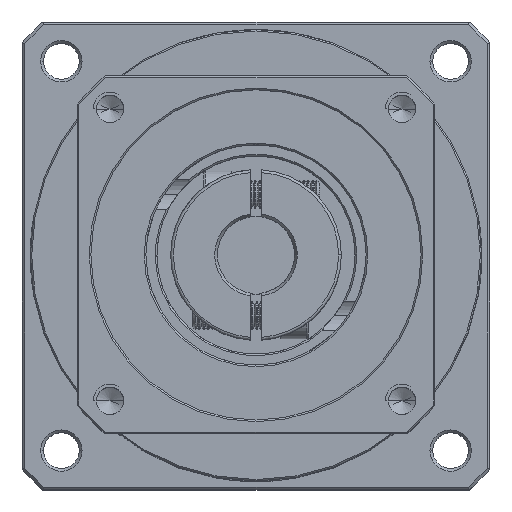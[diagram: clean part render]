
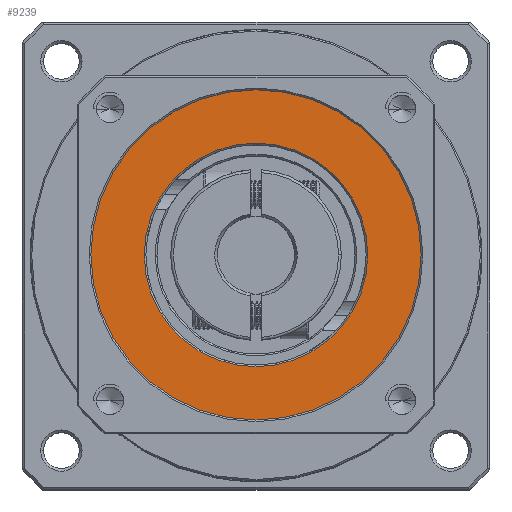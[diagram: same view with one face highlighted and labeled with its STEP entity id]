
A CAD part, top view. The second image highlights one B-rep face of the part: STEP entity #9239.
In plain terms, the highlighted planar face has unit normal (0, 0, 1).
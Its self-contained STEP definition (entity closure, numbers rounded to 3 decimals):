
#2091 = ORIENTED_EDGE ( 'NONE', *, *, #121039, .T. ) ;
#2296 = AXIS2_PLACEMENT_3D ( 'NONE', #97330, #15316, #126019 ) ;
#9239 = ADVANCED_FACE ( 'NONE', ( #124887, #27387 ), #37584, .T. ) ;
#14932 = CIRCLE ( 'NONE', #40703, 30. ) ;
#15214 = CIRCLE ( 'NONE', #2296, 20.3 ) ;
#15316 = DIRECTION ( 'NONE',  ( 0., 0., -1. ) ) ;
#16172 = CARTESIAN_POINT ( 'NONE',  ( -50.485, 43.615, -29.508 ) ) ;
#18883 = VERTEX_POINT ( 'NONE', #74022 ) ;
#21291 = DIRECTION ( 'NONE',  ( 0., 0., 1. ) ) ;
#27387 = FACE_OUTER_BOUND ( 'NONE', #131639, .T. ) ;
#31181 = AXIS2_PLACEMENT_3D ( 'NONE', #61903, #21291, #31568 ) ;
#31568 = DIRECTION ( 'NONE',  ( 1., 0., 0. ) ) ;
#37033 = ORIENTED_EDGE ( 'NONE', *, *, #92199, .T. ) ;
#37584 = PLANE ( 'NONE',  #84851 ) ;
#39472 = VERTEX_POINT ( 'NONE', #101765 ) ;
#40703 = AXIS2_PLACEMENT_3D ( 'NONE', #94527, #43172, #83374 ) ;
#43172 = DIRECTION ( 'NONE',  ( 0., 0., 1. ) ) ;
#43468 = CIRCLE ( 'NONE', #99413, 20.3 ) ;
#44241 = CARTESIAN_POINT ( 'NONE',  ( -70.785, 43.615, -29.508 ) ) ;
#44516 = CARTESIAN_POINT ( 'NONE',  ( -80.485, 43.615, -29.508 ) ) ;
#50109 = EDGE_CURVE ( 'NONE', #67669, #39472, #15214, .T. ) ;
#54288 = VERTEX_POINT ( 'NONE', #44516 ) ;
#57168 = DIRECTION ( 'NONE',  ( 1., 0., 0. ) ) ;
#61903 = CARTESIAN_POINT ( 'NONE',  ( -50.485, 43.615, -29.508 ) ) ;
#67411 = CIRCLE ( 'NONE', #31181, 30. ) ;
#67669 = VERTEX_POINT ( 'NONE', #44241 ) ;
#74022 = CARTESIAN_POINT ( 'NONE',  ( -20.485, 43.615, -29.508 ) ) ;
#80397 = ORIENTED_EDGE ( 'NONE', *, *, #96784, .T. ) ;
#83374 = DIRECTION ( 'NONE',  ( 1., 0., 0. ) ) ;
#84851 = AXIS2_PLACEMENT_3D ( 'NONE', #88013, #99192, #98737 ) ;
#87231 = ORIENTED_EDGE ( 'NONE', *, *, #50109, .T. ) ;
#87455 = DIRECTION ( 'NONE',  ( 0., 0., -1. ) ) ;
#88013 = CARTESIAN_POINT ( 'NONE',  ( -50.485, 43.615, -29.508 ) ) ;
#92199 = EDGE_CURVE ( 'NONE', #18883, #54288, #67411, .T. ) ;
#94527 = CARTESIAN_POINT ( 'NONE',  ( -50.485, 43.615, -29.508 ) ) ;
#96127 = EDGE_LOOP ( 'NONE', ( #80397, #87231 ) ) ;
#96784 = EDGE_CURVE ( 'NONE', #39472, #67669, #43468, .T. ) ;
#97330 = CARTESIAN_POINT ( 'NONE',  ( -50.485, 43.615, -29.508 ) ) ;
#98737 = DIRECTION ( 'NONE',  ( 1., 0., 0. ) ) ;
#99192 = DIRECTION ( 'NONE',  ( 0., 0., 1. ) ) ;
#99413 = AXIS2_PLACEMENT_3D ( 'NONE', #16172, #87455, #57168 ) ;
#101765 = CARTESIAN_POINT ( 'NONE',  ( -30.185, 43.615, -29.508 ) ) ;
#121039 = EDGE_CURVE ( 'NONE', #54288, #18883, #14932, .T. ) ;
#124887 = FACE_BOUND ( 'NONE', #96127, .T. ) ;
#126019 = DIRECTION ( 'NONE',  ( 1., 0., 0. ) ) ;
#131639 = EDGE_LOOP ( 'NONE', ( #37033, #2091 ) ) ;
